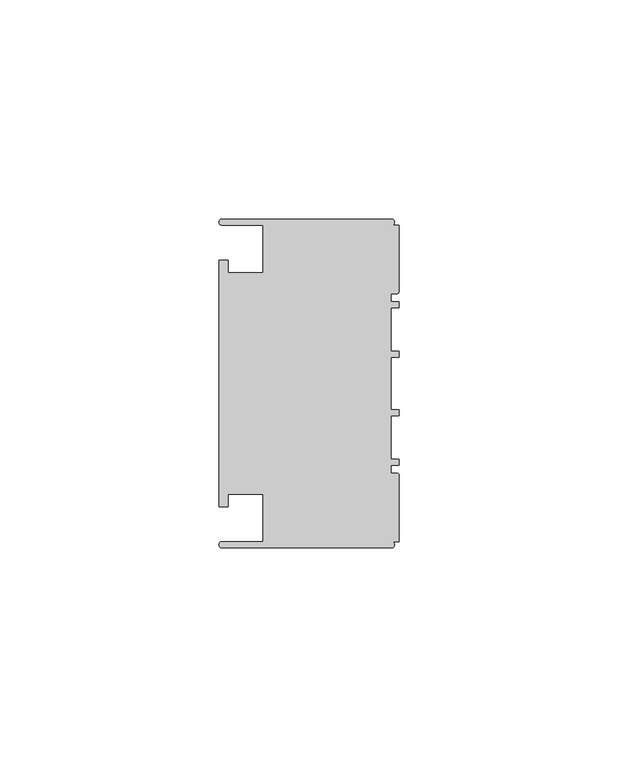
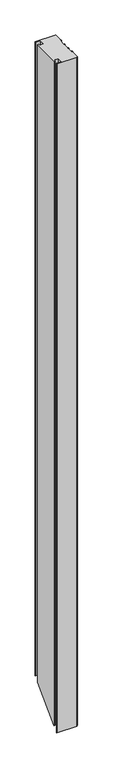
"""IFC4 building model written with IfcOpenShell, lengths in millimetres: member geometry, Прямоугольный импост : 3-AMG-2-Профиль 40Х75 Верх П."""

from ifc_helpers import new_model, si_unit, frame, origin, place, context, project, spatial, circle_curve, ellipse_curve, source, transform, mapped, element, save
from ifc_brep_helpers import plane_surface, cylinder_surface, advanced_brep


def member_e9287edd(model_context):
    return source(origin(), model_context, "Body", "AdvancedBrep", [
        advanced_brep(
        [(-1.7, 37.5, 0.0), (-40.4, 37.5, 0.0), (-40.4, 36.1, 0.0), (-31.0, 36.1, 0.0), (-31.0, 25.25, 0.0), (-39.0, 25.25, 0.0), (-39.0, 28.1, 0.0), (-41.1, 28.1, 0.0), (-41.1, -28.1, 0.0), (-39.0, -28.1, 0.0), (-39.0, -25.25, 0.0), (-31.0, -25.25, 0.0), (-31.0, -36.1, 0.0), (-40.4, -36.1, 0.0), (-40.4, -37.5, 0.0), (-1.7, -37.5, 0.0), (-1.7, -36.1, 0.0), (0.0, -36.1, 0.0), (0.0, -20.95, 0.0), (-0.5, -20.45, 0.0), (-1.8, -20.45, 0.0), (-1.8, -18.65, 0.0), (0.0, -18.65, 0.0), (0.0, -17.25, 0.0), (-1.8, -17.25, 0.0), (-1.8, -7.4, 0.0), (0.0, -7.4, 0.0), (0.0, -6.0, 0.0), (-1.8, -6.0, 0.0), (-1.8, 6.0, 0.0), (0.0, 6.0, 0.0), (0.0, 7.4, 0.0), (-1.8, 7.4, 0.0), (-1.8, 17.25, 0.0), (0.0, 17.25, 0.0), (0.0, 18.65, 0.0), (-1.8, 18.65, 0.0), (-1.8, 20.45, 0.0), (-0.5, 20.45, 0.0), (0.0, 20.95, 0.0), (0.0, 36.1, 0.0), (-1.7, 36.1, 0.0), (-1.7, 37.5, -1307.0001349), (-40.4, 37.5, -1307.0001349), (-40.4, 36.1, -1308.4001349), (-31.0, 36.1, -1308.4001349), (-31.0, 25.25, -1319.2501349), (-39.0, 25.25, -1319.2501349), (-39.0, 28.1, -1316.4001349), (-41.1, 28.1, -1316.4001349), (-41.1, -28.1, -1372.6001349), (-39.0, -28.1, -1372.6001349), (-39.0, -25.25, -1369.7501349), (-31.0, -25.25, -1369.7501349), (-31.0, -36.1, -1380.6001349), (-40.4, -36.1, -1380.6001349), (-40.4, -37.5, -1382.0001349), (-1.7, -37.5, -1382.0001349), (-1.7, -36.1, -1380.6001349), (0.0, -36.1, -1380.6001349), (0.0, -20.95, -1365.4501349), (-0.5, -20.45, -1364.9501349), (-1.8, -20.45, -1364.9501349), (-1.8, -18.65, -1363.1501349), (0.0, -18.65, -1363.1501349), (0.0, -17.25, -1361.7501349), (-1.8, -17.25, -1361.7501349), (-1.8, -7.4, -1351.9001349), (0.0, -7.4, -1351.9001349), (0.0, -6.0, -1350.5001349), (-1.8, -6.0, -1350.5001349), (-1.8, 6.0, -1338.5001349), (0.0, 6.0, -1338.5001349), (0.0, 7.4, -1337.1001349), (-1.8, 7.4, -1337.1001349), (-1.8, 17.25, -1327.2501349), (0.0, 17.25, -1327.2501349), (0.0, 18.65, -1325.8501349), (-1.8, 18.65, -1325.8501349), (-1.8, 20.45, -1324.0501349), (-0.5, 20.45, -1324.0501349), (0.0, 20.95, -1323.5501349), (0.0, 36.1, -1308.4001349), (-1.7, 36.1, -1308.4001349)],
        [
            (0, 1),
            (1, 2, circle_curve(frame((-40.4, 36.8, 0.0), z_axis=(0.0, 0.0, 1.0), x_axis=(-1.0, 0.0, 0.0)), 0.7)),
            (2, 3),
            (3, 4),
            (4, 5),
            (5, 6),
            (6, 7),
            (7, 8),
            (8, 9),
            (9, 10),
            (10, 11),
            (11, 12),
            (12, 13),
            (13, 14, circle_curve(frame((-40.4, -36.8, 0.0), z_axis=(0.0, 0.0, 1.0), x_axis=(-1.0, 0.0, 0.0)), 0.7)),
            (14, 15),
            (15, 16, circle_curve(frame((-1.7, -36.8, 0.0), z_axis=(0.0, 0.0, 1.0), x_axis=(-1.0, 0.0, 0.0)), 0.7)),
            (16, 17),
            (17, 18),
            (18, 19, circle_curve(frame((-0.5, -20.95, 0.0), z_axis=(0.0, 0.0, 1.0), x_axis=(0.0, 1.0, 0.0)), 0.5)),
            (19, 20),
            (20, 21),
            (21, 22),
            (22, 23),
            (23, 24),
            (24, 25),
            (25, 26),
            (26, 27),
            (27, 28),
            (28, 29),
            (29, 30),
            (30, 31),
            (31, 32),
            (32, 33),
            (33, 34),
            (34, 35),
            (35, 36),
            (36, 37),
            (37, 38),
            (38, 39, circle_curve(frame((-0.5, 20.95, 0.0), z_axis=(0.0, 0.0, 1.0), x_axis=(1.0, 0.0, 0.0)), 0.5)),
            (39, 40),
            (40, 41),
            (41, 0, circle_curve(frame((-1.7, 36.8, 0.0), z_axis=(0.0, 0.0, 1.0), x_axis=(-1.0, 0.0, 0.0)), 0.7)),
            (0, 42),
            (42, 43),
            (43, 1),
            (43, 44, ellipse_curve(frame((-40.4, 36.8, -1307.7001349), z_axis=(0.0, -0.7071067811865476, 0.7071067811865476), x_axis=(0.0, 0.7071067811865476, 0.7071067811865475)), 0.9899495, 0.7)),
            (44, 2),
            (44, 45),
            (45, 3),
            (45, 46),
            (46, 4),
            (46, 47),
            (47, 5),
            (47, 48),
            (48, 6),
            (48, 49),
            (49, 7),
            (49, 50),
            (50, 8),
            (50, 51),
            (51, 9),
            (51, 52),
            (52, 10),
            (52, 53),
            (53, 11),
            (53, 54),
            (54, 12),
            (54, 55),
            (55, 13),
            (55, 56, ellipse_curve(frame((-40.4, -36.8, -1381.3001349), z_axis=(0.0, -0.7071067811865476, 0.7071067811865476), x_axis=(0.0, 0.7071067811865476, 0.7071067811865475)), 0.9899495, 0.7)),
            (56, 14),
            (56, 57),
            (57, 15),
            (57, 58, ellipse_curve(frame((-1.7, -36.8, -1381.3001349), z_axis=(0.0, -0.7071067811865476, 0.7071067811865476), x_axis=(0.0, 0.7071067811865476, 0.7071067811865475)), 0.9899495, 0.7)),
            (58, 16),
            (58, 59),
            (59, 17),
            (59, 60),
            (60, 18),
            (60, 61, ellipse_curve(frame((-0.5, -20.95, -1365.4501349), z_axis=(0.0, -0.7071067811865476, 0.7071067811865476), x_axis=(0.0, 0.7071067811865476, 0.7071067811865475)), 0.7071068, 0.5)),
            (61, 19),
            (61, 62),
            (62, 20),
            (62, 63),
            (63, 21),
            (63, 64),
            (64, 22),
            (64, 65),
            (65, 23),
            (65, 66),
            (66, 24),
            (66, 67),
            (67, 25),
            (67, 68),
            (68, 26),
            (68, 69),
            (69, 27),
            (69, 70),
            (70, 28),
            (70, 71),
            (71, 29),
            (71, 72),
            (72, 30),
            (72, 73),
            (73, 31),
            (73, 74),
            (74, 32),
            (74, 75),
            (75, 33),
            (75, 76),
            (76, 34),
            (76, 77),
            (77, 35),
            (77, 78),
            (78, 36),
            (78, 79),
            (79, 37),
            (79, 80),
            (80, 38),
            (80, 81, ellipse_curve(frame((-0.5, 20.95, -1323.5501349), z_axis=(0.0, -0.7071067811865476, 0.7071067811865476), x_axis=(0.0, 0.7071067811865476, 0.7071067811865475)), 0.7071068, 0.5)),
            (81, 39),
            (81, 82),
            (82, 40),
            (82, 83),
            (83, 41),
            (83, 42, ellipse_curve(frame((-1.7, 36.8, -1307.7001349), z_axis=(0.0, -0.7071067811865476, 0.7071067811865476), x_axis=(0.0, 0.7071067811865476, 0.7071067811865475)), 0.9899495, 0.7)),
        ],
        [
            plane_surface(frame((0.0, -55.1674723, 0.0), z_axis=(0.0, 0.0, 1.0), x_axis=(-1.0, 0.0, 0.0))),
            plane_surface(frame((-1.7, 37.5, 0.0), z_axis=(0.0, 1.0, 0.0), x_axis=(0.0, 0.0, -1.0))),
            cylinder_surface(frame((-40.4, 36.8, 0.0), z_axis=(0.0, 0.0, 1.0), x_axis=(-1.0, 0.0, 0.0)), 0.7),
            plane_surface(frame((-40.4, 36.1, 0.0), z_axis=(0.0, -1.0, 0.0), x_axis=(0.0, 0.0, -1.0))),
            plane_surface(frame((-31.0, 36.1, 0.0), z_axis=(-1.0, 0.0, 0.0), x_axis=(0.0, 0.0, -1.0))),
            plane_surface(frame((-31.0, 25.25, 0.0), z_axis=(0.0, 1.0, 0.0), x_axis=(0.0, 0.0, -1.0))),
            plane_surface(frame((-39.0, 25.25, 0.0), z_axis=(1.0, 0.0, 0.0), x_axis=(0.0, 0.0, -1.0))),
            plane_surface(frame((-39.0, 28.1, 0.0), z_axis=(0.0, 1.0, 0.0), x_axis=(0.0, 0.0, -1.0))),
            plane_surface(frame((-41.1, 28.1, 0.0), z_axis=(-1.0, 0.0, 0.0), x_axis=(0.0, 0.0, -1.0))),
            plane_surface(frame((-41.1, -28.1, 0.0), z_axis=(0.0, -1.0, 0.0), x_axis=(0.0, 0.0, -1.0))),
            plane_surface(frame((-39.0, -28.1, 0.0), z_axis=(1.0, 0.0, 0.0), x_axis=(0.0, 0.0, -1.0))),
            plane_surface(frame((-39.0, -25.25, 0.0), z_axis=(0.0, -1.0, 0.0), x_axis=(0.0, 0.0, -1.0))),
            plane_surface(frame((-31.0, -25.25, 0.0), z_axis=(-1.0, 0.0, 0.0), x_axis=(0.0, 0.0, -1.0))),
            plane_surface(frame((-31.0, -36.1, 0.0), z_axis=(0.0, 1.0, 0.0), x_axis=(0.0, 0.0, -1.0))),
            cylinder_surface(frame((-40.4, -36.8, 0.0), z_axis=(0.0, 0.0, 1.0), x_axis=(-1.0, 0.0, 0.0)), 0.7),
            plane_surface(frame((-40.4, -37.5, 0.0), z_axis=(0.0, -1.0, 0.0), x_axis=(0.0, 0.0, -1.0))),
            cylinder_surface(frame((-1.7, -36.8, 0.0), z_axis=(0.0, 0.0, 1.0), x_axis=(-1.0, 0.0, 0.0)), 0.7),
            plane_surface(frame((-1.7, -36.1, 0.0), z_axis=(0.0, -1.0, 0.0), x_axis=(0.0, 0.0, -1.0))),
            plane_surface(frame((0.0, -36.1, 0.0), z_axis=(1.0, 0.0, 0.0), x_axis=(0.0, 0.0, -1.0))),
            cylinder_surface(frame((-0.5, -20.95, 0.0), z_axis=(0.0, 0.0, 1.0), x_axis=(0.0, 1.0, 0.0)), 0.5),
            plane_surface(frame((-0.5, -20.45, 0.0), z_axis=(0.0, 1.0, 0.0), x_axis=(0.0, 0.0, -1.0))),
            plane_surface(frame((-1.8, -20.45, 0.0), z_axis=(1.0, 0.0, 0.0), x_axis=(0.0, 0.0, -1.0))),
            plane_surface(frame((-1.8, -18.65, 0.0), z_axis=(0.0, -1.0, 0.0), x_axis=(0.0, 0.0, -1.0))),
            plane_surface(frame((0.0, -18.65, 0.0), z_axis=(1.0, 0.0, 0.0), x_axis=(0.0, 0.0, -1.0))),
            plane_surface(frame((0.0, -17.25, 0.0), z_axis=(0.0, 1.0, 0.0), x_axis=(0.0, 0.0, -1.0))),
            plane_surface(frame((-1.8, -17.25, 0.0), z_axis=(1.0, 0.0, 0.0), x_axis=(0.0, 0.0, -1.0))),
            plane_surface(frame((-1.8, -7.4, 0.0), z_axis=(0.0, -1.0, 0.0), x_axis=(0.0, 0.0, -1.0))),
            plane_surface(frame((0.0, -7.4, 0.0), z_axis=(1.0, 0.0, 0.0), x_axis=(0.0, 0.0, -1.0))),
            plane_surface(frame((0.0, -6.0, 0.0), z_axis=(0.0, 1.0, 0.0), x_axis=(0.0, 0.0, -1.0))),
            plane_surface(frame((-1.8, -6.0, 0.0), z_axis=(1.0, 0.0, 0.0), x_axis=(0.0, 0.0, -1.0))),
            plane_surface(frame((-1.8, 6.0, 0.0), z_axis=(0.0, -1.0, 0.0), x_axis=(0.0, 0.0, -1.0))),
            plane_surface(frame((0.0, 6.0, 0.0), z_axis=(1.0, 0.0, 0.0), x_axis=(0.0, 0.0, -1.0))),
            plane_surface(frame((0.0, 7.4, 0.0), z_axis=(0.0, 1.0, 0.0), x_axis=(0.0, 0.0, -1.0))),
            plane_surface(frame((-1.8, 7.4, 0.0), z_axis=(1.0, 0.0, 0.0), x_axis=(0.0, 0.0, -1.0))),
            plane_surface(frame((-1.8, 17.25, 0.0), z_axis=(0.0, -1.0, 0.0), x_axis=(0.0, 0.0, -1.0))),
            plane_surface(frame((0.0, 17.25, 0.0), z_axis=(1.0, 0.0, 0.0), x_axis=(0.0, 0.0, -1.0))),
            plane_surface(frame((0.0, 18.65, 0.0), z_axis=(0.0, 1.0, 0.0), x_axis=(0.0, 0.0, -1.0))),
            plane_surface(frame((-1.8, 18.65, 0.0), z_axis=(1.0, 0.0, 0.0), x_axis=(0.0, 0.0, -1.0))),
            plane_surface(frame((-1.8, 20.45, 0.0), z_axis=(0.0, -1.0, 0.0), x_axis=(0.0, 0.0, -1.0))),
            cylinder_surface(frame((-0.5, 20.95, 0.0), z_axis=(0.0, 0.0, 1.0), x_axis=(1.0, 0.0, 0.0)), 0.5),
            plane_surface(frame((0.0, 20.95, 0.0), z_axis=(1.0, 0.0, 0.0), x_axis=(0.0, 0.0, -1.0))),
            plane_surface(frame((0.0, 36.1, 0.0), z_axis=(0.0, 1.0, 0.0), x_axis=(0.0, 0.0, -1.0))),
            cylinder_surface(frame((-1.7, 36.8, 0.0), z_axis=(0.0, 0.0, 1.0), x_axis=(-1.0, 0.0, 0.0)), 0.7),
            plane_surface(frame((-304.8, 0.0, -1344.5001349), z_axis=(0.0, 0.7071067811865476, -0.7071067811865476), x_axis=(0.0, 0.7071067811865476, 0.7071067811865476))),
        ],
        [
            (0, [[1, 2, 3, 4, 5, 6, 7, 8, 9, 10, 11, 12, 13, 14, 15, 16, 17, 18, 19, 20, 21, 22, 23, 24, 25, 26, 27, 28, 29, 30, 31, 32, 33, 34, 35, 36, 37, 38, 39, 40, 41, 42]]),
            (1, [[-1, 43, 44, 45]]),
            (2, [[-2, -45, 46, 47]]),
            (3, [[-3, -47, 48, 49]]),
            (4, [[-4, -49, 50, 51]]),
            (5, [[-5, -51, 52, 53]]),
            (6, [[-6, -53, 54, 55]]),
            (7, [[-7, -55, 56, 57]]),
            (8, [[-8, -57, 58, 59]]),
            (9, [[-9, -59, 60, 61]]),
            (10, [[-10, -61, 62, 63]]),
            (11, [[-11, -63, 64, 65]]),
            (12, [[-12, -65, 66, 67]]),
            (13, [[-13, -67, 68, 69]]),
            (14, [[-14, -69, 70, 71]]),
            (15, [[-15, -71, 72, 73]]),
            (16, [[-16, -73, 74, 75]]),
            (17, [[-17, -75, 76, 77]]),
            (18, [[-18, -77, 78, 79]]),
            (19, [[-19, -79, 80, 81]]),
            (20, [[-20, -81, 82, 83]]),
            (21, [[-21, -83, 84, 85]]),
            (22, [[-22, -85, 86, 87]]),
            (23, [[-23, -87, 88, 89]]),
            (24, [[-24, -89, 90, 91]]),
            (25, [[-25, -91, 92, 93]]),
            (26, [[-26, -93, 94, 95]]),
            (27, [[-27, -95, 96, 97]]),
            (28, [[-28, -97, 98, 99]]),
            (29, [[-29, -99, 100, 101]]),
            (30, [[-30, -101, 102, 103]]),
            (31, [[-31, -103, 104, 105]]),
            (32, [[-32, -105, 106, 107]]),
            (33, [[-33, -107, 108, 109]]),
            (34, [[-34, -109, 110, 111]]),
            (35, [[-35, -111, 112, 113]]),
            (36, [[-36, -113, 114, 115]]),
            (37, [[-37, -115, 116, 117]]),
            (38, [[-38, -117, 118, 119]]),
            (39, [[-39, -119, 120, 121]]),
            (40, [[-40, -121, 122, 123]]),
            (41, [[-41, -123, 124, 125]]),
            (42, [[-42, -125, 126, -43]]),
            (43, [[-126, -124, -122, -120, -118, -116, -114, -112, -110, -108, -106, -104, -102, -100, -98, -96, -94, -92, -90, -88, -86, -84, -82, -80, -78, -76, -74, -72, -70, -68, -66, -64, -62, -60, -58, -56, -54, -52, -50, -48, -46, -44]]),
        ],
    ),
    ])


if __name__ == "__main__":
    model = new_model("IFC4")
    model_context = context("Model", 3, world=origin())
    ifc_project = project(units=[si_unit("LENGTHUNIT", "METRE", prefix="MILLI")], contexts=[model_context])
    site = spatial("IfcSite", under=ifc_project)
    building = spatial("IfcBuilding", under=site)
    placement = place(None, origin())
    member_shape = member_e9287edd(model_context)
    element("IfcMember", 1, ObjectType="Прямоугольный импост : 3-AMG-2-Профиль 40Х75 Верх П", at=placement, inside=building, context=model_context, shape_type="MappedRepresentation", body=[
        mapped(member_shape, transform((0.0, 0.0, 0.0), x_axis=(1.0, 0.0, 0.0), y_axis=(0.0, 1.0, 0.0), z_axis=(0.0, 0.0, 1.0))),
    ])
    save(model, "model.ifc")
